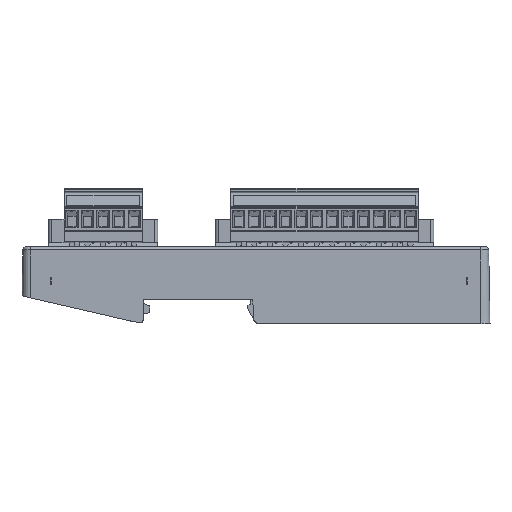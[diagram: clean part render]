
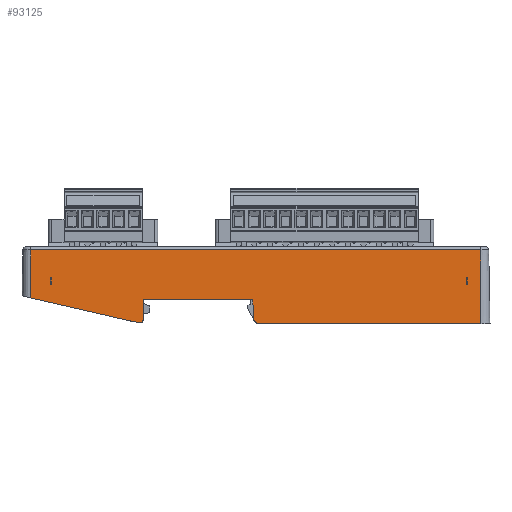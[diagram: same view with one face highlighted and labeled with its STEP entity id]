
A CAD part, left-side view. The second image highlights one B-rep face of the part: STEP entity #93125.
In plain terms, the highlighted planar face has unit normal (-1, 0, 0.018).
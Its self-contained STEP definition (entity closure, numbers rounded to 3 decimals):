
#86338=CARTESIAN_POINT('',(-84.007,54.501,8.407));
#86339=VERTEX_POINT('',#86338);
#86340=CARTESIAN_POINT('',(-84.145,20.251,0.5));
#86341=VERTEX_POINT('',#86340);
#86342=CARTESIAN_POINT('',(-84.007,54.501,8.407));
#86343=DIRECTION('',(-0.004,-0.974,-0.225));
#86344=VECTOR('',#86343,35.151);
#86345=LINE('',#86342,#86344);
#86346=EDGE_CURVE('',#86339,#86341,#86345,.T.);
#86403=CARTESIAN_POINT('',(-83.735,54.501,24.017));
#86404=VERTEX_POINT('',#86403);
#86405=CARTESIAN_POINT('',(-84.007,54.501,8.407));
#86406=DIRECTION('',(0.017,0.,1.));
#86407=VECTOR('',#86406,15.613);
#86408=LINE('',#86405,#86407);
#86409=EDGE_CURVE('',#86339,#86404,#86408,.T.);
#86525=CARTESIAN_POINT('',(-84.154,-91.899,0.));
#86526=VERTEX_POINT('',#86525);
#86527=CARTESIAN_POINT('',(-83.735,-91.899,24.017));
#86528=VERTEX_POINT('',#86527);
#86529=CARTESIAN_POINT('',(-84.154,-91.899,0.));
#86530=DIRECTION('',(0.017,0.,1.));
#86531=VECTOR('',#86530,24.021);
#86532=LINE('',#86529,#86531);
#86533=EDGE_CURVE('',#86526,#86528,#86532,.T.);
#87471=CARTESIAN_POINT('',(-84.019,-17.749,7.751));
#87472=VERTEX_POINT('',#87471);
#87479=CARTESIAN_POINT('',(-84.019,17.751,7.751));
#87480=VERTEX_POINT('',#87479);
#87481=CARTESIAN_POINT('',(-84.019,17.751,7.751));
#87482=DIRECTION('',(0.0,-1.0,0.0));
#87483=VECTOR('',#87482,35.5);
#87484=LINE('',#87481,#87483);
#87485=EDGE_CURVE('',#87480,#87472,#87484,.T.);
#87580=CARTESIAN_POINT('',(-84.145,18.004,0.5));
#87581=VERTEX_POINT('',#87580);
#87582=CARTESIAN_POINT('',(-84.145,20.251,0.5));
#87583=DIRECTION('',(0.0,-1.0,0.0));
#87584=VECTOR('',#87583,2.247);
#87585=LINE('',#87582,#87584);
#87586=EDGE_CURVE('',#86341,#87581,#87585,.T.);
#87661=CARTESIAN_POINT('',(-84.145,18.004,0.5));
#87662=DIRECTION('',(0.017,-0.035,0.999));
#87663=VECTOR('',#87662,7.256);
#87664=LINE('',#87661,#87663);
#87665=EDGE_CURVE('',#87581,#87480,#87664,.T.);
#92639=CARTESIAN_POINT('',(-83.892,-87.461,15.));
#92640=VERTEX_POINT('',#92639);
#92641=CARTESIAN_POINT('',(-83.932,-87.422,12.75));
#92642=VERTEX_POINT('',#92641);
#92643=CARTESIAN_POINT('',(-83.892,-87.461,15.));
#92644=DIRECTION('',(-0.017,0.017,-1.));
#92645=VECTOR('',#92644,2.251);
#92646=LINE('',#92643,#92645);
#92647=EDGE_CURVE('',#92640,#92642,#92646,.T.);
#92670=CARTESIAN_POINT('',(-83.932,48.1,12.75));
#92671=VERTEX_POINT('',#92670);
#92672=CARTESIAN_POINT('',(-83.892,48.139,15.));
#92673=VERTEX_POINT('',#92672);
#92674=CARTESIAN_POINT('',(-83.932,48.1,12.75));
#92675=DIRECTION('',(0.017,0.017,1.));
#92676=VECTOR('',#92675,2.251);
#92677=LINE('',#92674,#92676);
#92678=EDGE_CURVE('',#92671,#92673,#92677,.T.);
#92831=CARTESIAN_POINT('',(-84.154,-19.951,0.));
#92832=VERTEX_POINT('',#92831);
#92881=CARTESIAN_POINT('',(-84.154,-19.951,0.));
#92882=DIRECTION('',(0.0,-1.0,0.0));
#92883=VECTOR('',#92882,71.948);
#92884=LINE('',#92881,#92883);
#92885=EDGE_CURVE('',#92832,#86526,#92884,.T.);
#93040=CARTESIAN_POINT('',(-84.154,-91.899,0.));
#93041=DIRECTION('',(-1.,0.,0.017));
#93042=DIRECTION('',(0.0,-1.0,0.0));
#93043=AXIS2_PLACEMENT_3D('',#93040,#93041,#93042);
#93044=PLANE('',#93043);
#93045=ORIENTED_EDGE('',*,*,#86533,.T.);
#93046=CARTESIAN_POINT('',(-83.735,54.501,24.017));
#93047=DIRECTION('',(0.0,-1.0,0.0));
#93048=VECTOR('',#93047,146.4);
#93049=LINE('',#93046,#93048);
#93050=EDGE_CURVE('',#86404,#86528,#93049,.T.);
#93051=ORIENTED_EDGE('',*,*,#93050,.F.);
#93052=ORIENTED_EDGE('',*,*,#86409,.F.);
#93053=ORIENTED_EDGE('',*,*,#86346,.T.);
#93054=ORIENTED_EDGE('',*,*,#87586,.T.);
#93055=ORIENTED_EDGE('',*,*,#87665,.T.);
#93056=ORIENTED_EDGE('',*,*,#87485,.T.);
#93057=CARTESIAN_POINT('',(-84.121,-17.953,1.93));
#93058=VERTEX_POINT('',#93057);
#93059=CARTESIAN_POINT('',(-84.019,-17.749,7.751));
#93060=DIRECTION('',(-0.017,-0.035,-0.999));
#93061=VECTOR('',#93060,5.825);
#93062=LINE('',#93059,#93061);
#93063=EDGE_CURVE('',#87472,#93058,#93062,.T.);
#93064=ORIENTED_EDGE('',*,*,#93063,.T.);
#93065=CARTESIAN_POINT('',(-84.119,-19.951,2.));
#93066=DIRECTION('',(1.,0.,-0.017));
#93067=DIRECTION('',(-0.017,0.,-1.));
#93068=AXIS2_PLACEMENT_3D('',#93065,#93066,#93067);
#93069=ELLIPSE('',#93068,2.,2.0);
#93070=EDGE_CURVE('',#92832,#93058,#93069,.T.);
#93071=ORIENTED_EDGE('',*,*,#93070,.F.);
#93072=ORIENTED_EDGE('',*,*,#92885,.T.);
#93073=EDGE_LOOP('',(#93045,#93051,#93052,#93053,#93054,#93055,#93056,#93064,#93071,#93072));
#93074=FACE_OUTER_BOUND('',#93073,.T.);
#93075=CARTESIAN_POINT('',(-83.932,47.85,12.75));
#93076=VERTEX_POINT('',#93075);
#93077=CARTESIAN_POINT('',(-83.932,47.85,12.75));
#93078=DIRECTION('',(0.,1.0,0.));
#93079=VECTOR('',#93078,0.25);
#93080=LINE('',#93077,#93079);
#93081=EDGE_CURVE('',#93076,#92671,#93080,.T.);
#93082=ORIENTED_EDGE('',*,*,#93081,.T.);
#93083=ORIENTED_EDGE('',*,*,#92678,.T.);
#93084=CARTESIAN_POINT('',(-83.892,47.889,15.));
#93085=VERTEX_POINT('',#93084);
#93086=CARTESIAN_POINT('',(-83.892,48.139,15.));
#93087=DIRECTION('',(0.,-1.0,0.0));
#93088=VECTOR('',#93087,0.25);
#93089=LINE('',#93086,#93088);
#93090=EDGE_CURVE('',#92673,#93085,#93089,.T.);
#93091=ORIENTED_EDGE('',*,*,#93090,.T.);
#93092=CARTESIAN_POINT('',(-83.932,47.85,12.75));
#93093=DIRECTION('',(0.017,0.017,1.));
#93094=VECTOR('',#93093,2.251);
#93095=LINE('',#93092,#93094);
#93096=EDGE_CURVE('',#93076,#93085,#93095,.T.);
#93097=ORIENTED_EDGE('',*,*,#93096,.F.);
#93098=EDGE_LOOP('',(#93082,#93083,#93091,#93097));
#93099=FACE_BOUND('',#93098,.T.);
#93100=CARTESIAN_POINT('',(-83.892,-87.213,15.));
#93101=VERTEX_POINT('',#93100);
#93102=CARTESIAN_POINT('',(-83.932,-87.173,12.75));
#93103=VERTEX_POINT('',#93102);
#93104=CARTESIAN_POINT('',(-83.892,-87.213,15.));
#93105=DIRECTION('',(-0.017,0.017,-1.));
#93106=VECTOR('',#93105,2.251);
#93107=LINE('',#93104,#93106);
#93108=EDGE_CURVE('',#93101,#93103,#93107,.T.);
#93109=ORIENTED_EDGE('',*,*,#93108,.F.);
#93110=CARTESIAN_POINT('',(-83.892,-87.213,15.));
#93111=DIRECTION('',(0.,-1.0,0.0));
#93112=VECTOR('',#93111,0.248);
#93113=LINE('',#93110,#93112);
#93114=EDGE_CURVE('',#93101,#92640,#93113,.T.);
#93115=ORIENTED_EDGE('',*,*,#93114,.T.);
#93116=ORIENTED_EDGE('',*,*,#92647,.T.);
#93117=CARTESIAN_POINT('',(-83.932,-87.422,12.75));
#93118=DIRECTION('',(0.,1.0,0.));
#93119=VECTOR('',#93118,0.248);
#93120=LINE('',#93117,#93119);
#93121=EDGE_CURVE('',#92642,#93103,#93120,.T.);
#93122=ORIENTED_EDGE('',*,*,#93121,.T.);
#93123=EDGE_LOOP('',(#93109,#93115,#93116,#93122));
#93124=FACE_BOUND('',#93123,.T.);
#93125=ADVANCED_FACE('',(#93074,#93099,#93124),#93044,.T.);
